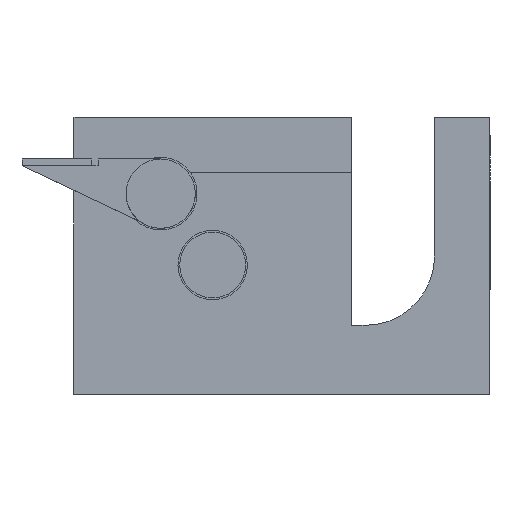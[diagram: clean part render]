
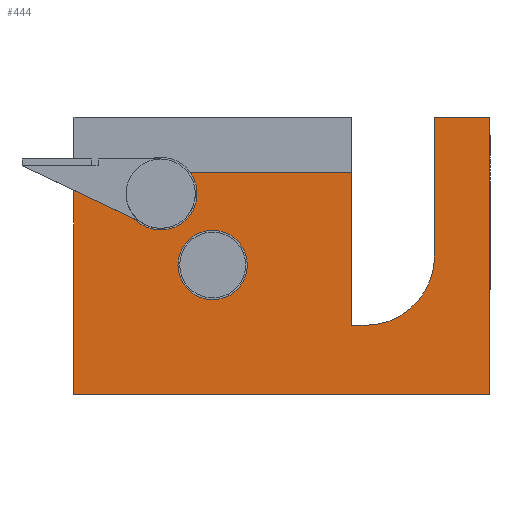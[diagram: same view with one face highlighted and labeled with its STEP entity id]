
A CAD part, left-side view. The second image highlights one B-rep face of the part: STEP entity #444.
In plain terms, the highlighted planar face has unit normal (-1, 0, 0).
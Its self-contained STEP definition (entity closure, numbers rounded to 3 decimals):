
#14 = EDGE_CURVE ( 'NONE', #15, #16, #961, .T. ) ;
#15 = VERTEX_POINT ( 'NONE', #957 ) ;
#16 = VERTEX_POINT ( 'NONE', #956 ) ;
#34 = EDGE_CURVE ( 'NONE', #182, #183, #1202, .T. ) ;
#35 = EDGE_CURVE ( 'NONE', #36, #37, #1276, .T. ) ;
#36 = VERTEX_POINT ( 'NONE', #1272 ) ;
#37 = VERTEX_POINT ( 'NONE', #1271 ) ;
#182 = VERTEX_POINT ( 'NONE', #1509 ) ;
#183 = VERTEX_POINT ( 'NONE', #1508 ) ;
#200 = VERTEX_POINT ( 'NONE', #1616 ) ;
#219 = EDGE_CURVE ( 'NONE', #16, #474, #1586, .T. ) ;
#225 = EDGE_CURVE ( 'NONE', #474, #226, #1469, .T. ) ;
#226 = VERTEX_POINT ( 'NONE', #1465 ) ;
#251 = EDGE_CURVE ( 'NONE', #226, #252, #1518, .T. ) ;
#252 = VERTEX_POINT ( 'NONE', #1514 ) ;
#300 = ORIENTED_EDGE ( 'NONE', *, *, #488, .F. ) ;
#301 = ORIENTED_EDGE ( 'NONE', *, *, #481, .F. ) ;
#302 = ORIENTED_EDGE ( 'NONE', *, *, #451, .T. ) ;
#305 = ORIENTED_EDGE ( 'NONE', *, *, #251, .F. ) ;
#306 = ORIENTED_EDGE ( 'NONE', *, *, #225, .F. ) ;
#307 = ORIENTED_EDGE ( 'NONE', *, *, #219, .F. ) ;
#308 = EDGE_LOOP ( 'NONE', ( #309, #310 ) ) ;
#309 = ORIENTED_EDGE ( 'NONE', *, *, #34, .F. ) ;
#310 = ORIENTED_EDGE ( 'NONE', *, *, #311, .F. ) ;
#311 = EDGE_CURVE ( 'NONE', #183, #182, #1773, .T. ) ;
#312 = EDGE_LOOP ( 'NONE', ( #313, #315 ) ) ;
#313 = ORIENTED_EDGE ( 'NONE', *, *, #314, .T. ) ;
#314 = EDGE_CURVE ( 'NONE', #37, #36, #1768, .T. ) ;
#315 = ORIENTED_EDGE ( 'NONE', *, *, #35, .T. ) ;
#444 = ADVANCED_FACE ( 'NONE', ( #1788, #1782, #1781 ), #1780, .F. ) ;
#445 = EDGE_LOOP ( 'NONE', ( #446, #447, #300, #301, #302, #453, #305, #306, #307 ) ) ;
#446 = ORIENTED_EDGE ( 'NONE', *, *, #14, .F. ) ;
#447 = ORIENTED_EDGE ( 'NONE', *, *, #502, .F. ) ;
#451 = EDGE_CURVE ( 'NONE', #200, #452, #2002, .T. ) ;
#452 = VERTEX_POINT ( 'NONE', #1951 ) ;
#453 = ORIENTED_EDGE ( 'NONE', *, *, #454, .T. ) ;
#454 = EDGE_CURVE ( 'NONE', #452, #252, #1906, .T. ) ;
#474 = VERTEX_POINT ( 'NONE', #1911 ) ;
#481 = EDGE_CURVE ( 'NONE', #200, #482, #2046, .T. ) ;
#482 = VERTEX_POINT ( 'NONE', #2042 ) ;
#488 = EDGE_CURVE ( 'NONE', #482, #489, #2039, .T. ) ;
#489 = VERTEX_POINT ( 'NONE', #2064 ) ;
#502 = EDGE_CURVE ( 'NONE', #489, #15, #2012, .T. ) ;
#956 = CARTESIAN_POINT ( 'NONE',  ( -20., 0., 20. ) ) ;
#957 = CARTESIAN_POINT ( 'NONE',  ( -20., 8., 20. ) ) ;
#958 = DIRECTION ( 'NONE',  ( 0., -1., 0. ) ) ;
#959 = VECTOR ( 'NONE', #958, 1000. ) ;
#960 = CARTESIAN_POINT ( 'NONE',  ( -20., 8., 20. ) ) ;
#961 = LINE ( 'NONE', #960, #959 ) ;
#1170 = DIRECTION ( 'NONE',  ( 0., 0., -1. ) ) ;
#1199 = DIRECTION ( 'NONE',  ( 0., 0., 1. ) ) ;
#1200 = DIRECTION ( 'NONE',  ( -1., 0., 0. ) ) ;
#1201 = AXIS2_PLACEMENT_3D ( 'NONE', #1209, #1200, #1199 ) ;
#1202 = CIRCLE ( 'NONE', #1201, 2. ) ;
#1203 = CARTESIAN_POINT ( 'NONE',  ( -20., 40., -1.3 ) ) ;
#1209 = CARTESIAN_POINT ( 'NONE',  ( -20., 47.5, 9. ) ) ;
#1271 = CARTESIAN_POINT ( 'NONE',  ( -20., 45., -1.3 ) ) ;
#1272 = CARTESIAN_POINT ( 'NONE',  ( -20., 35., -1.3 ) ) ;
#1273 = DIRECTION ( 'NONE',  ( 0., 1., 0. ) ) ;
#1274 = DIRECTION ( 'NONE',  ( 1., 0., 0. ) ) ;
#1275 = AXIS2_PLACEMENT_3D ( 'NONE', #1203, #1274, #1273 ) ;
#1276 = CIRCLE ( 'NONE', #1275, 5. ) ;
#1465 = CARTESIAN_POINT ( 'NONE',  ( -20., 60., -20. ) ) ;
#1466 = DIRECTION ( 'NONE',  ( 0., 1., 0. ) ) ;
#1467 = VECTOR ( 'NONE', #1466, 1000. ) ;
#1468 = CARTESIAN_POINT ( 'NONE',  ( -20., 0., -20. ) ) ;
#1469 = LINE ( 'NONE', #1468, #1467 ) ;
#1482 = VECTOR ( 'NONE', #1584, 1000. ) ;
#1508 = CARTESIAN_POINT ( 'NONE',  ( -20., 49.432, 9.518 ) ) ;
#1509 = CARTESIAN_POINT ( 'NONE',  ( -20., 45.568, 8.482 ) ) ;
#1514 = CARTESIAN_POINT ( 'NONE',  ( -20., 60., 12. ) ) ;
#1515 = DIRECTION ( 'NONE',  ( 0., 0., 1. ) ) ;
#1516 = VECTOR ( 'NONE', #1515, 1000. ) ;
#1517 = CARTESIAN_POINT ( 'NONE',  ( -20., 60., -20. ) ) ;
#1518 = LINE ( 'NONE', #1517, #1516 ) ;
#1584 = DIRECTION ( 'NONE',  ( 0., 0., -1. ) ) ;
#1585 = CARTESIAN_POINT ( 'NONE',  ( -20., 0., 20. ) ) ;
#1586 = LINE ( 'NONE', #1585, #1482 ) ;
#1616 = CARTESIAN_POINT ( 'NONE',  ( -20., 20., -10. ) ) ;
#1764 = DIRECTION ( 'NONE',  ( 0., 1., 0. ) ) ;
#1765 = DIRECTION ( 'NONE',  ( 1., 0., 0. ) ) ;
#1766 = CARTESIAN_POINT ( 'NONE',  ( -20., 40., -1.3 ) ) ;
#1767 = AXIS2_PLACEMENT_3D ( 'NONE', #1766, #1765, #1764 ) ;
#1768 = CIRCLE ( 'NONE', #1767, 5. ) ;
#1769 = DIRECTION ( 'NONE',  ( 0., 0., 1. ) ) ;
#1770 = DIRECTION ( 'NONE',  ( -1., 0., 0. ) ) ;
#1771 = CARTESIAN_POINT ( 'NONE',  ( -20., 47.5, 9. ) ) ;
#1772 = AXIS2_PLACEMENT_3D ( 'NONE', #1771, #1770, #1769 ) ;
#1773 = CIRCLE ( 'NONE', #1772, 2. ) ;
#1775 = DIRECTION ( 'NONE',  ( 1., 0., 0. ) ) ;
#1776 = CARTESIAN_POINT ( 'NONE',  ( -20., 18., 0. ) ) ;
#1777 = AXIS2_PLACEMENT_3D ( 'NONE', #1776, #1775, #1170 ) ;
#1780 = PLANE ( 'NONE',  #1777 ) ;
#1781 = FACE_BOUND ( 'NONE', #312, .T. ) ;
#1782 = FACE_BOUND ( 'NONE', #308, .T. ) ;
#1788 = FACE_OUTER_BOUND ( 'NONE', #445, .T. ) ;
#1906 = LINE ( 'NONE', #2001, #2000 ) ;
#1911 = CARTESIAN_POINT ( 'NONE',  ( -20., 0., -20. ) ) ;
#1951 = CARTESIAN_POINT ( 'NONE',  ( -20., 20., 12. ) ) ;
#1952 = DIRECTION ( 'NONE',  ( 0., 0., 1. ) ) ;
#1953 = VECTOR ( 'NONE', #1952, 1000. ) ;
#1999 = DIRECTION ( 'NONE',  ( 0., 1., 0. ) ) ;
#2000 = VECTOR ( 'NONE', #1999, 1000. ) ;
#2001 = CARTESIAN_POINT ( 'NONE',  ( -20., 20., 12. ) ) ;
#2002 = LINE ( 'NONE', #2069, #1953 ) ;
#2009 = DIRECTION ( 'NONE',  ( 0., 0., 1. ) ) ;
#2010 = VECTOR ( 'NONE', #2009, 1000. ) ;
#2011 = CARTESIAN_POINT ( 'NONE',  ( -20., 8., 0. ) ) ;
#2012 = LINE ( 'NONE', #2011, #2010 ) ;
#2039 = CIRCLE ( 'NONE', #2068, 10. ) ;
#2042 = CARTESIAN_POINT ( 'NONE',  ( -20., 18., -10. ) ) ;
#2043 = DIRECTION ( 'NONE',  ( 0., -1., 0. ) ) ;
#2044 = VECTOR ( 'NONE', #2043, 1000. ) ;
#2045 = CARTESIAN_POINT ( 'NONE',  ( -20., 60., -10. ) ) ;
#2046 = LINE ( 'NONE', #2045, #2044 ) ;
#2064 = CARTESIAN_POINT ( 'NONE',  ( -20., 8., 0. ) ) ;
#2065 = DIRECTION ( 'NONE',  ( 0., 0., -1. ) ) ;
#2066 = DIRECTION ( 'NONE',  ( -1., 0., 0. ) ) ;
#2067 = CARTESIAN_POINT ( 'NONE',  ( -20., 18., 0. ) ) ;
#2068 = AXIS2_PLACEMENT_3D ( 'NONE', #2067, #2066, #2065 ) ;
#2069 = CARTESIAN_POINT ( 'NONE',  ( -20., 20., -10. ) ) ;
